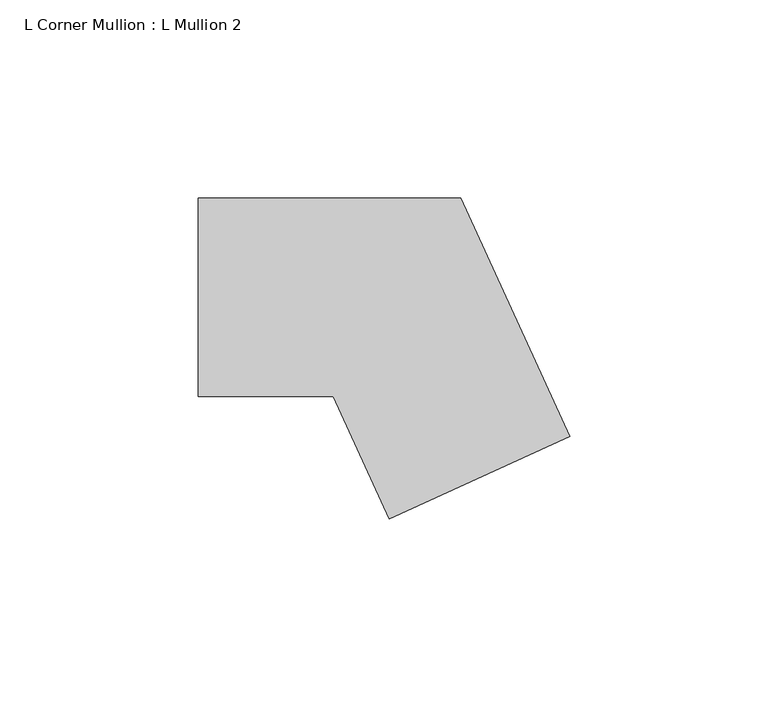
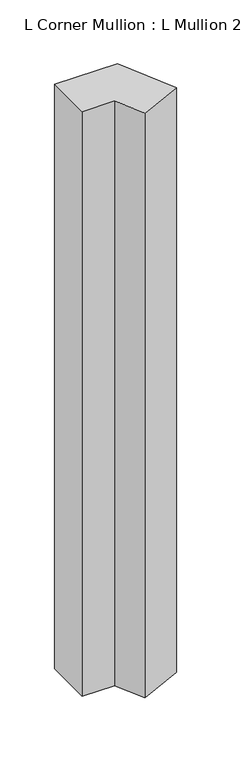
"""IFC4 building model written with IfcOpenShell, lengths in millimetres: member geometry, L Corner Mullion : L Mullion 2."""

from ifc_helpers import new_model, si_unit, frame, origin, place, context, project, spatial, polyline, outline, extrude, source, transform, mapped, element, save


def l_corner_mullion_l_mullion_2_ca922b6e(model_context):
    return source(origin(), model_context, "Body", "SweptSolid", [
        extrude(outline(polyline([(-1.9250938, -55.8685423), (-16.0523154, -25.0), (-50.0, -25.0), (-50.0, 25.0), (16.0523154, 25.0), (43.5397775, -35.0612004), (-1.9250938, -55.8685423)])), frame((0.0, 0.0, -650.0), z_axis=(0.0, 0.0, 1.0), x_axis=(1.0, 0.0, 0.0)), (0.0, 0.0, 1.0), 650.0),
    ])


if __name__ == "__main__":
    model = new_model("IFC4")
    model_context = context("Model", 3, world=origin())
    ifc_project = project(units=[si_unit("LENGTHUNIT", "METRE", prefix="MILLI")], contexts=[model_context])
    site = spatial("IfcSite", under=ifc_project)
    building = spatial("IfcBuilding", under=site)
    placement = place(None, origin())
    l_corner_mullion_l_mullion_2_shape = l_corner_mullion_l_mullion_2_ca922b6e(model_context)
    element("IfcMember", 1, ObjectType="L Corner Mullion : L Mullion 2", at=placement, inside=building, context=model_context, shape_type="MappedRepresentation", body=[
        mapped(l_corner_mullion_l_mullion_2_shape, transform((0.0, 0.0, 0.0), x_axis=(1.0, 0.0, 0.0), y_axis=(0.0, 1.0, 0.0), z_axis=(0.0, 0.0, 1.0))),
    ])
    save(model, "model.ifc")
